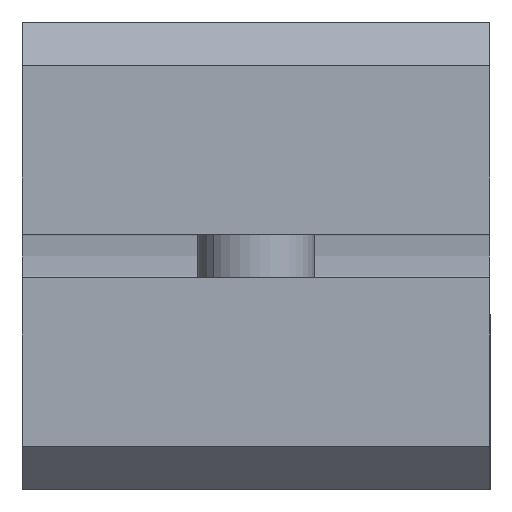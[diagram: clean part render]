
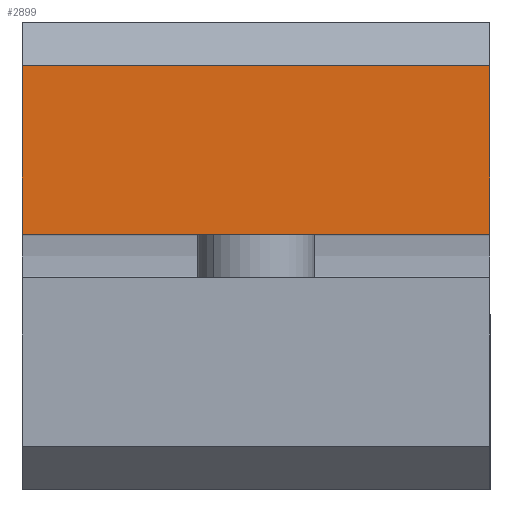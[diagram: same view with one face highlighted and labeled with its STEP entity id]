
A CAD part, left-side view. The second image highlights one B-rep face of the part: STEP entity #2899.
In plain terms, the highlighted planar face has unit normal (-1, 0, 0).
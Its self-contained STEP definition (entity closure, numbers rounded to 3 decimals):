
#182 = CARTESIAN_POINT ( 'NONE',  ( -75.105, 16.048, 6.5 ) ) ;
#1007 = CARTESIAN_POINT ( 'NONE',  ( -75.105, 24.048, 0.75 ) ) ;
#1016 = EDGE_CURVE ( 'NONE', #3135, #1296, #5968, .T. ) ;
#1296 = VERTEX_POINT ( 'NONE', #6866 ) ;
#2592 = ORIENTED_EDGE ( 'NONE', *, *, #10464, .T. ) ;
#2709 = DIRECTION ( 'NONE',  ( 0., -1., 0. ) ) ;
#2899 = ADVANCED_FACE ( 'NONE', ( #6313 ), #8997, .T. ) ;
#2959 = AXIS2_PLACEMENT_3D ( 'NONE', #6379, #4328, #8881 ) ;
#3135 = VERTEX_POINT ( 'NONE', #3148 ) ;
#3148 = CARTESIAN_POINT ( 'NONE',  ( -75.105, 32.048, 0.75 ) ) ;
#3226 = ORIENTED_EDGE ( 'NONE', *, *, #3774, .F. ) ;
#3283 = ORIENTED_EDGE ( 'NONE', *, *, #8042, .T. ) ;
#3774 = EDGE_CURVE ( 'NONE', #7417, #1296, #11416, .T. ) ;
#4328 = DIRECTION ( 'NONE',  ( -1., 0., 0. ) ) ;
#4827 = VECTOR ( 'NONE', #8316, 1000. ) ;
#4840 = CARTESIAN_POINT ( 'NONE',  ( -75.105, 24.048, 6.5 ) ) ;
#4937 = ORIENTED_EDGE ( 'NONE', *, *, #1016, .T. ) ;
#5968 = LINE ( 'NONE', #1007, #7630 ) ;
#6246 = CARTESIAN_POINT ( 'NONE',  ( -75.105, 32.048, 6.5 ) ) ;
#6313 = FACE_OUTER_BOUND ( 'NONE', #7236, .T. ) ;
#6335 = CARTESIAN_POINT ( 'NONE',  ( -75.105, 32.048, 3.625 ) ) ;
#6379 = CARTESIAN_POINT ( 'NONE',  ( -75.105, 16.048, 0.75 ) ) ;
#6505 = LINE ( 'NONE', #6335, #4827 ) ;
#6866 = CARTESIAN_POINT ( 'NONE',  ( -75.105, 16.048, 0.75 ) ) ;
#7236 = EDGE_LOOP ( 'NONE', ( #2592, #4937, #3226, #3283 ) ) ;
#7417 = VERTEX_POINT ( 'NONE', #182 ) ;
#7630 = VECTOR ( 'NONE', #2709, 1000. ) ;
#7698 = LINE ( 'NONE', #4840, #11652 ) ;
#8042 = EDGE_CURVE ( 'NONE', #7417, #11044, #7698, .T. ) ;
#8316 = DIRECTION ( 'NONE',  ( 0., 0., -1. ) ) ;
#8497 = DIRECTION ( 'NONE',  ( 0., 0., -1. ) ) ;
#8881 = DIRECTION ( 'NONE',  ( 0., 0., 1. ) ) ;
#8997 = PLANE ( 'NONE',  #2959 ) ;
#9564 = CARTESIAN_POINT ( 'NONE',  ( -75.105, 16.048, 0. ) ) ;
#10464 = EDGE_CURVE ( 'NONE', #11044, #3135, #6505, .T. ) ;
#11044 = VERTEX_POINT ( 'NONE', #6246 ) ;
#11347 = DIRECTION ( 'NONE',  ( 0., 1., 0. ) ) ;
#11416 = LINE ( 'NONE', #9564, #11723 ) ;
#11652 = VECTOR ( 'NONE', #11347, 1000. ) ;
#11723 = VECTOR ( 'NONE', #8497, 1000. ) ;
